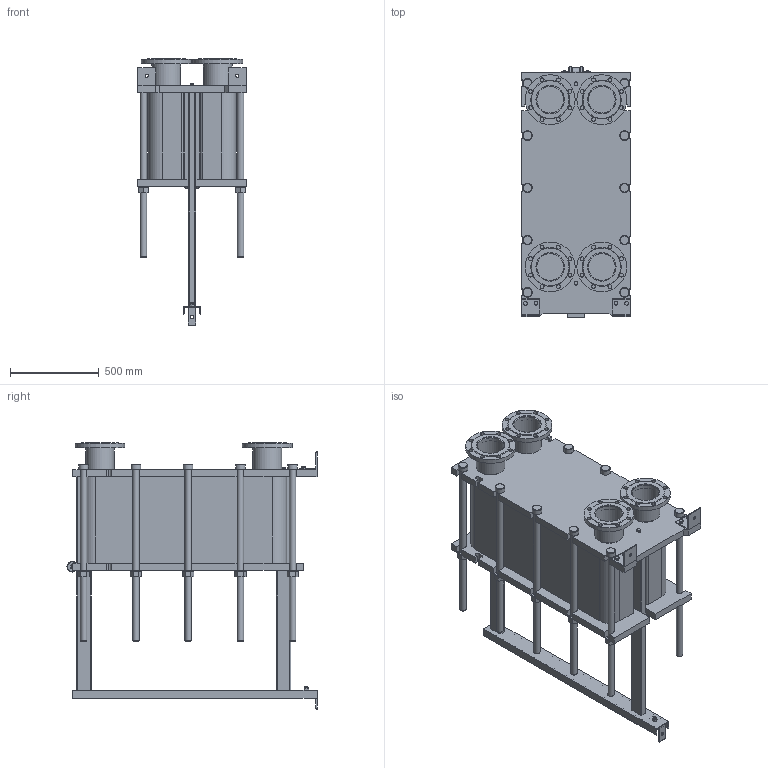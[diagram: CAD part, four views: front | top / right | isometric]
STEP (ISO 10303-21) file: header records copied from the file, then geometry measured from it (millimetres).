
FILE_DESCRIPTION(/* description */ (''),/* implementation_level */ '2;1');
FILE_NAME(/* name */ 'C:\Users\zhuro\Desktop\ENCO\TO\ЭН-041\ЭН-0,5-041-141-1.stp',/* time_stamp */ '2022-06-06T11:00:53+03:00',/* author */ ('zhuro'),/* organization */ (''),/* preprocessor_version */ 'ST-DEVELOPER v18.1',/* originating_system */ 'Autodesk Inventor 2022',/* authorisation */ '');
FILE_SCHEMA (('AUTOMOTIVE_DESIGN { 1 0 10303 214 3 1 1 }'));
Length unit declared in the file: millimetre
Products named in the file (1): ЭН-0,5-041-141-1
Bounding box: 610 x 1406.5 x 1497.5 mm (x, y, z)
Volume: 356951941.1 mm3; surface area: 9928527.5 mm2
Topology: 52 solids, 52 shells, 711 faces, 1696 edges, 1094 vertices
Faces by surface type: plane 487, cylinder 177, cone 41, torus 6
Full cylindrical faces by diameter (mm): 8 x4, 10 x2, 16 x8, 18 x3, 22 x32, 36 x24, 50 x1, 54 x10, 60 x12, 151 x4, 161 x8, 280 x4
Entity records: 22667 total; most frequent: CARTESIAN_POINT 5230, DIRECTION 3644, ORIENTED_EDGE 3392, EDGE_CURVE 1696, AXIS2_PLACEMENT_3D 1272, LINE 1100, VECTOR 1100, VERTEX_POINT 1094
